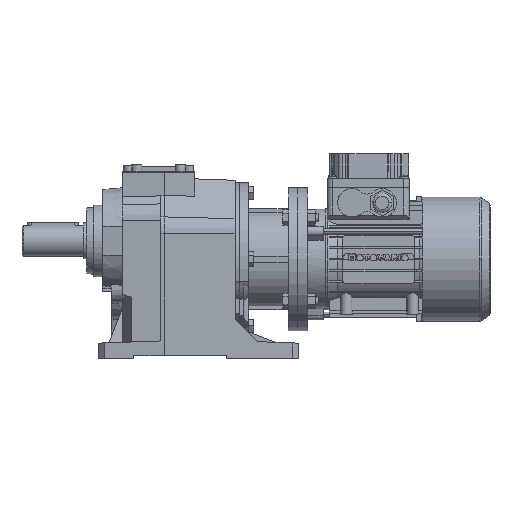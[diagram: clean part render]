
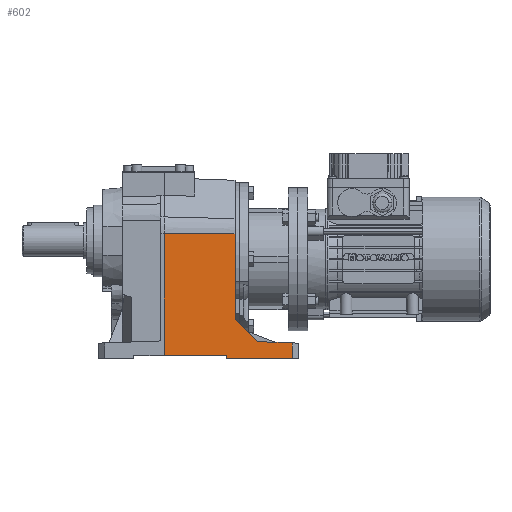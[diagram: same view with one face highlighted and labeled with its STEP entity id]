
A CAD part, top view. The second image highlights one B-rep face of the part: STEP entity #602.
In plain terms, the highlighted planar face has unit normal (0.035, 0, 0.999).
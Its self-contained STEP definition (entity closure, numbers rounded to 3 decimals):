
#602 = ADVANCED_FACE( '', ( #2903 ), #2904, .T. );
#2903 = FACE_OUTER_BOUND( '', #7465, .T. );
#2904 = PLANE( '', #7466 );
#7465 = EDGE_LOOP( '', ( #12592, #12593, #12594, #12595, #12596, #12597, #12598, #12599, #12600 ) );
#7466 = AXIS2_PLACEMENT_3D( '', #12601, #12602, #12603 );
#12592 = ORIENTED_EDGE( '', *, *, #30846, .T. );
#12593 = ORIENTED_EDGE( '', *, *, #30834, .T. );
#12594 = ORIENTED_EDGE( '', *, *, #30936, .F. );
#12595 = ORIENTED_EDGE( '', *, *, #30937, .T. );
#12596 = ORIENTED_EDGE( '', *, *, #30938, .F. );
#12597 = ORIENTED_EDGE( '', *, *, #30939, .F. );
#12598 = ORIENTED_EDGE( '', *, *, #30776, .T. );
#12599 = ORIENTED_EDGE( '', *, *, #30940, .F. );
#12600 = ORIENTED_EDGE( '', *, *, #30930, .F. );
#12601 = CARTESIAN_POINT( '', ( -73., -94., 85. ) );
#12602 = DIRECTION( '', ( 0.035, 0., 0.999 ) );
#12603 = DIRECTION( '', ( 0., -1., 0. ) );
#30776 = EDGE_CURVE( '', #37005, #37003, #37006, .T. );
#30834 = EDGE_CURVE( '', #37114, #37115, #37116, .T. );
#30846 = EDGE_CURVE( '', #37138, #37114, #37139, .T. );
#30930 = EDGE_CURVE( '', #37138, #37269, #37270, .T. );
#30936 = EDGE_CURVE( '', #37280, #37115, #37281, .T. );
#30937 = EDGE_CURVE( '', #37280, #37282, #37283, .T. );
#30938 = EDGE_CURVE( '', #37284, #37282, #37285, .T. );
#30939 = EDGE_CURVE( '', #37005, #37284, #37286, .T. );
#30940 = EDGE_CURVE( '', #37269, #37003, #37287, .T. );
#37003 = VERTEX_POINT( '', #47217 );
#37005 = VERTEX_POINT( '', #47219 );
#37006 = LINE( '', #47220, #47221 );
#37114 = VERTEX_POINT( '', #47372 );
#37115 = VERTEX_POINT( '', #47373 );
#37116 = LINE( '', #47374, #47375 );
#37138 = VERTEX_POINT( '', #47404 );
#37139 = LINE( '', #47405, #47406 );
#37269 = VERTEX_POINT( '', #47599 );
#37270 = LINE( '', #47600, #47601 );
#37280 = VERTEX_POINT( '', #47616 );
#37281 = LINE( '', #47617, #47618 );
#37282 = VERTEX_POINT( '', #47619 );
#37283 = LINE( '', #47620, #47621 );
#37284 = VERTEX_POINT( '', #47622 );
#37285 = LINE( '', #47623, #47624 );
#37286 = LINE( '', #47625, #47626 );
#37287 = LINE( '', #47627, #47628 );
#47217 = CARTESIAN_POINT( '', ( -4., 24.973, 82.59 ) );
#47219 = CARTESIAN_POINT( '', ( -4., -58.603, 82.59 ) );
#47220 = CARTESIAN_POINT( '', ( -4., -94., 82.59 ) );
#47221 = VECTOR( '', #62851, 1. );
#47372 = CARTESIAN_POINT( '', ( -12., -94., 82.87 ) );
#47373 = CARTESIAN_POINT( '', ( -12., -97., 82.87 ) );
#47374 = CARTESIAN_POINT( '', ( -12., -95.5, 82.87 ) );
#47375 = VECTOR( '', #62937, 1. );
#47404 = CARTESIAN_POINT( '', ( -73., -94., 85. ) );
#47405 = CARTESIAN_POINT( '', ( -35.062, -94., 83.675 ) );
#47406 = VECTOR( '', #62957, 1. );
#47599 = CARTESIAN_POINT( '', ( -73., 24.973, 85. ) );
#47600 = CARTESIAN_POINT( '', ( -73., -94., 85. ) );
#47601 = VECTOR( '', #63081, 1. );
#47616 = CARTESIAN_POINT( '', ( 52.004, -97., 80.635 ) );
#47617 = CARTESIAN_POINT( '', ( -4.598, -97., 82.611 ) );
#47618 = VECTOR( '', #63087, 1. );
#47619 = CARTESIAN_POINT( '', ( 52.004, -81.791, 80.635 ) );
#47620 = CARTESIAN_POINT( '', ( 52.004, -97., 80.635 ) );
#47621 = VECTOR( '', #63088, 1. );
#47622 = CARTESIAN_POINT( '', ( 18., -80.603, 81.822 ) );
#47623 = CARTESIAN_POINT( '', ( -69.681, -77.541, 84.884 ) );
#47624 = VECTOR( '', #63089, 1. );
#47625 = CARTESIAN_POINT( '', ( 0.919, -63.522, 82.419 ) );
#47626 = VECTOR( '', #63090, 1. );
#47627 = CARTESIAN_POINT( '', ( -73., 24.973, 85. ) );
#47628 = VECTOR( '', #63091, 1. );
#62851 = DIRECTION( '', ( 0., 1., 0. ) );
#62937 = DIRECTION( '', ( 0., -1., 0. ) );
#62957 = DIRECTION( '', ( 0.999, 0., -0.035 ) );
#63081 = DIRECTION( '', ( 0., 1., 0. ) );
#63087 = DIRECTION( '', ( -0.999, 0., 0.035 ) );
#63088 = DIRECTION( '', ( 0., 1., 0. ) );
#63089 = DIRECTION( '', ( 0.999, -0.035, -0.035 ) );
#63090 = DIRECTION( '', ( 0.707, -0.707, -0.025 ) );
#63091 = DIRECTION( '', ( 0.999, 0., -0.035 ) );
